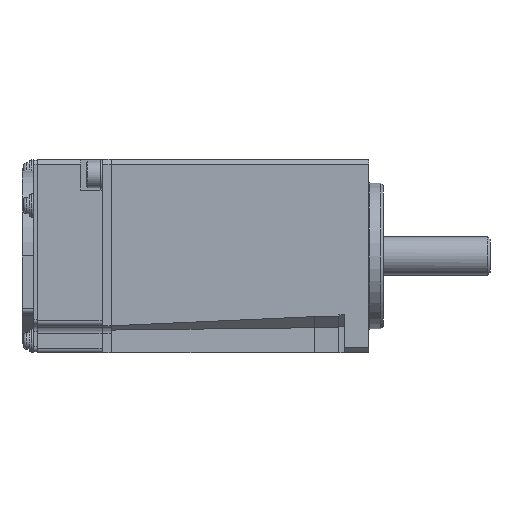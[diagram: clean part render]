
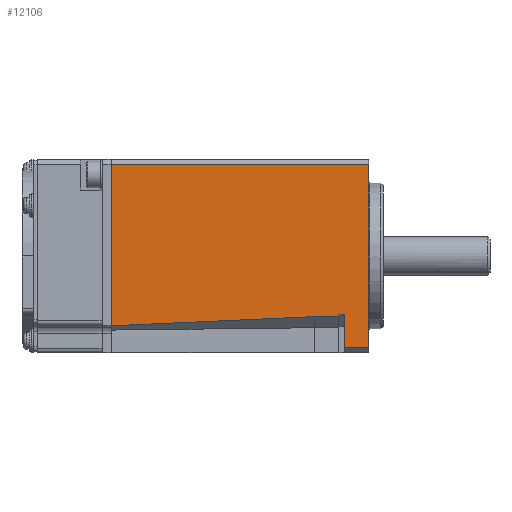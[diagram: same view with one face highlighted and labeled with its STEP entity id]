
A CAD part, front view. The second image highlights one B-rep face of the part: STEP entity #12106.
In plain terms, the highlighted planar face has unit normal (0, -1, 0).
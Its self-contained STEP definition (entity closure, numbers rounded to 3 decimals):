
#519=PLANE('',#14116);
#3363=ORIENTED_EDGE('',*,*,#5545,.F.);
#3364=ORIENTED_EDGE('',*,*,#5546,.F.);
#3365=ORIENTED_EDGE('',*,*,#5547,.T.);
#3366=ORIENTED_EDGE('',*,*,#5548,.F.);
#3367=ORIENTED_EDGE('',*,*,#5549,.T.);
#3368=ORIENTED_EDGE('',*,*,#5550,.T.);
#3369=ORIENTED_EDGE('',*,*,#5551,.T.);
#3370=ORIENTED_EDGE('',*,*,#5552,.F.);
#3371=ORIENTED_EDGE('',*,*,#5553,.F.);
#5545=EDGE_CURVE('',#6844,#6845,#8072,.T.);
#5546=EDGE_CURVE('',#6846,#6844,#8073,.T.);
#5547=EDGE_CURVE('',#6846,#6847,#8074,.T.);
#5548=EDGE_CURVE('',#6848,#6847,#8075,.T.);
#5549=EDGE_CURVE('',#6848,#6849,#8076,.T.);
#5550=EDGE_CURVE('',#6849,#6850,#8077,.T.);
#5551=EDGE_CURVE('',#6850,#6851,#8078,.T.);
#5552=EDGE_CURVE('',#6852,#6851,#8079,.T.);
#5553=EDGE_CURVE('',#6845,#6852,#8080,.T.);
#6844=VERTEX_POINT('',#20528);
#6845=VERTEX_POINT('',#20529);
#6846=VERTEX_POINT('',#20531);
#6847=VERTEX_POINT('',#20533);
#6848=VERTEX_POINT('',#20535);
#6849=VERTEX_POINT('',#20537);
#6850=VERTEX_POINT('',#20539);
#6851=VERTEX_POINT('',#20541);
#6852=VERTEX_POINT('',#20543);
#8072=LINE('',#20527,#9314);
#8073=LINE('',#20530,#9315);
#8074=LINE('',#20532,#9316);
#8075=LINE('',#20534,#9317);
#8076=LINE('',#20536,#9318);
#8077=LINE('',#20538,#9319);
#8078=LINE('',#20540,#9320);
#8079=LINE('',#20542,#9321);
#8080=LINE('',#20544,#9322);
#9314=VECTOR('',#16932,1000.);
#9315=VECTOR('',#16933,1000.);
#9316=VECTOR('',#16934,1000.);
#9317=VECTOR('',#16935,1000.);
#9318=VECTOR('',#16936,1000.);
#9319=VECTOR('',#16937,1000.);
#9320=VECTOR('',#16938,1000.);
#9321=VECTOR('',#16939,1000.);
#9322=VECTOR('',#16940,1000.);
#10270=EDGE_LOOP('',(#3363,#3364,#3365,#3366,#3367,#3368,#3369,#3370,#3371));
#11162=FACE_BOUND('',#10270,.T.);
#12106=ADVANCED_FACE('',(#11162),#519,.T.);
#14116=AXIS2_PLACEMENT_3D('',#20526,#16930,#16931);
#16930=DIRECTION('',(0.,-1.,0.));
#16931=DIRECTION('',(0.,0.,-1.));
#16932=DIRECTION('',(0.,0.,1.));
#16933=DIRECTION('',(-0.999,0.,-0.045));
#16934=DIRECTION('',(1.,0.,0.));
#16935=DIRECTION('',(0.,0.,-1.));
#16936=DIRECTION('',(1.,0.,0.));
#16937=DIRECTION('',(0.,0.,-1.));
#16938=DIRECTION('',(1.,0.,0.));
#16939=DIRECTION('',(0.,0.,-1.));
#16940=DIRECTION('',(1.,0.,0.));
#20526=CARTESIAN_POINT('',(-54.9,-20.,18.875));
#20527=CARTESIAN_POINT('',(-53.,-20.,18.875));
#20528=CARTESIAN_POINT('',(-53.,-20.,-14.395));
#20529=CARTESIAN_POINT('',(-53.,-20.,18.875));
#20530=CARTESIAN_POINT('',(-11.2,-20.,-12.5));
#20531=CARTESIAN_POINT('',(-11.2,-20.,-12.5));
#20532=CARTESIAN_POINT('',(-11.2,-20.,-12.5));
#20533=CARTESIAN_POINT('',(-6.2,-20.,-12.5));
#20534=CARTESIAN_POINT('',(-6.2,-20.,-12.1));
#20535=CARTESIAN_POINT('',(-6.2,-20.,-12.1));
#20536=CARTESIAN_POINT('',(-6.2,-20.,-12.1));
#20537=CARTESIAN_POINT('',(-5.,-20.,-12.1));
#20538=CARTESIAN_POINT('',(-5.,-20.,-12.1));
#20539=CARTESIAN_POINT('',(-5.,-20.,-18.875));
#20540=CARTESIAN_POINT('',(-54.9,-20.,-18.875));
#20541=CARTESIAN_POINT('',(0.,-20.,-18.875));
#20542=CARTESIAN_POINT('',(0.,-20.,18.875));
#20543=CARTESIAN_POINT('',(0.,-20.,18.875));
#20544=CARTESIAN_POINT('',(-54.9,-20.,18.875));
